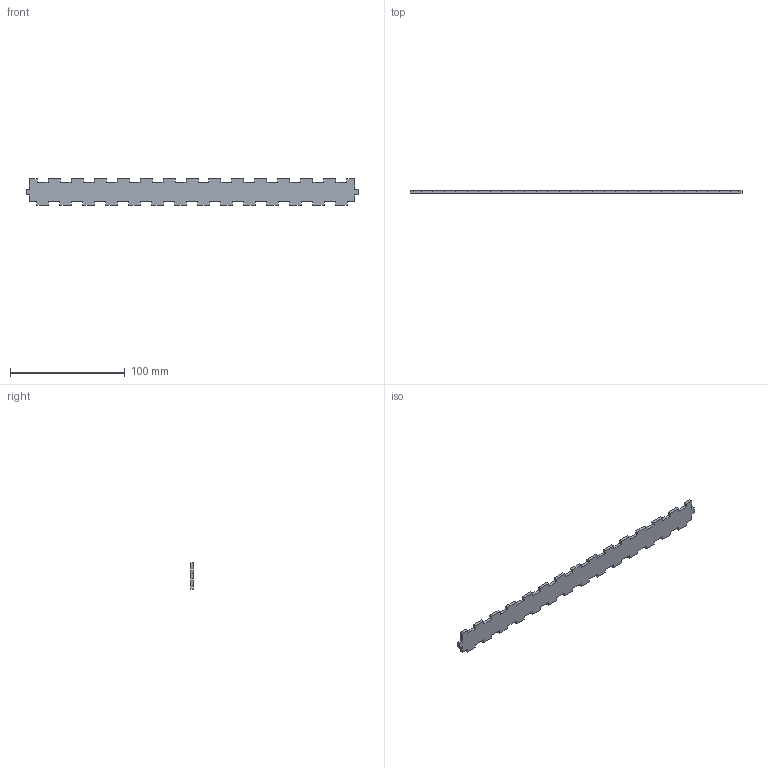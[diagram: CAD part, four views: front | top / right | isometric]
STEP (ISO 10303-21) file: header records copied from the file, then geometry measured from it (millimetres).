
FILE_DESCRIPTION (( 'STEP AP214' ), '1' );
FILE_NAME ('botom_extension.STEP', '2025-06-15T00:43:34', ( '' ), ( '' ), 'SwSTEP 2.0', 'SolidWorks 2024', '' );
FILE_SCHEMA (( 'AUTOMOTIVE_DESIGN' ));
Length unit declared in the file: millimetre
Products named in the file (1): botom_extension
Bounding box: 289 x 2.5 x 23 mm (x, y, z)
Volume: 14272.3 mm3; surface area: 13382.9 mm2
Topology: 1 solids, 1 shells, 126 faces, 372 edges, 248 vertices
Faces by surface type: plane 126
Entity records: 4139 total; most frequent: CARTESIAN_POINT 747, ORIENTED_EDGE 744, DIRECTION 626, LINE 372, VECTOR 372, EDGE_CURVE 372, VERTEX_POINT 248, AXIS2_PLACEMENT_3D 127
